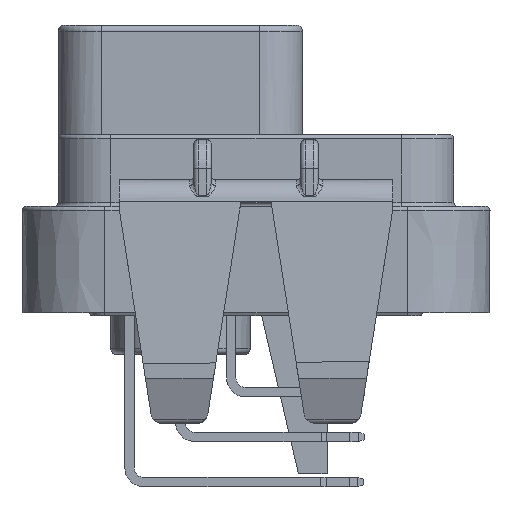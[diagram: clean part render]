
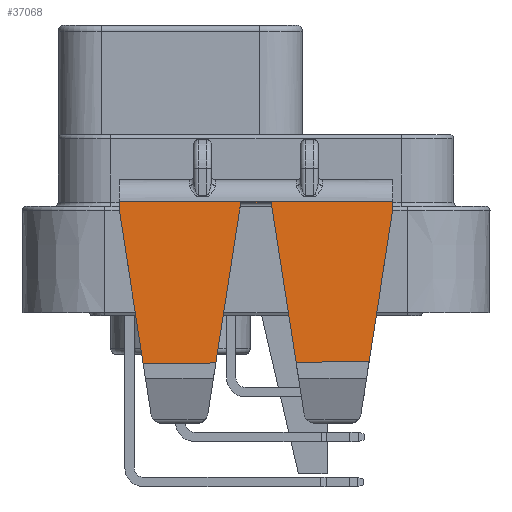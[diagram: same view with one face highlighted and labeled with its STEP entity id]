
A CAD part, left-side view. The second image highlights one B-rep face of the part: STEP entity #37068.
In plain terms, the highlighted planar face has unit normal (-0.998, 0, 0.056).
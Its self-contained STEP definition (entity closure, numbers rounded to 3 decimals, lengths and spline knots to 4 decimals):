
#2166=DIRECTION('',(0.056,0.,0.998));
#2167=VECTOR('',#2166,0.0315);
#2168=CARTESIAN_POINT('',(-2.4013,-0.475,-0.015));
#2169=LINE('',#2168,#2167);
#2528=DIRECTION('',(0.056,0.,0.998));
#2529=VECTOR('',#2528,0.0315);
#2530=CARTESIAN_POINT('',(-2.4013,0.475,-0.015));
#2531=LINE('',#2530,#2529);
#3285=DIRECTION('',(0.,1.,0.));
#3286=VECTOR('',#3285,0.95);
#3287=CARTESIAN_POINT('',(-2.3996,-0.475,0.0165));
#3288=LINE('',#3287,#3286);
#3406=DIRECTION('',(0.,1.,-0.009));
#3407=VECTOR('',#3406,0.2519);
#3408=CARTESIAN_POINT('',(-2.4311,0.1401,
-0.5467));
#3409=LINE('',#3408,#3407);
#3410=DIRECTION('',(0.055,0.153,0.987));
#3411=VECTOR('',#3410,0.5411);
#3412=CARTESIAN_POINT('',(-2.4312,0.392,
-0.5489));
#3413=LINE('',#3412,#3411);
#3414=DIRECTION('',(0.055,-0.153,0.987));
#3415=VECTOR('',#3414,0.5341);
#3416=CARTESIAN_POINT('',(-2.4308,-0.3931,
-0.5419));
#3417=LINE('',#3416,#3415);
#3418=DIRECTION('',(0.,1.,-0.009));
#3419=VECTOR('',#3418,0.2534);
#3420=CARTESIAN_POINT('',(-2.4308,-0.3931,
-0.5419));
#3421=LINE('',#3420,#3419);
#3422=DIRECTION('',(0.,-1.,0.));
#3423=VECTOR('',#3422,0.1066);
#3424=CARTESIAN_POINT('',(-2.3998,0.0533,0.012));
#3425=LINE('',#3424,#3423);
#3438=DIRECTION('',(0.055,-0.153,0.987));
#3439=VECTOR('',#3438,0.5662);
#3440=CARTESIAN_POINT('',(-2.4311,0.1401,
-0.5467));
#3441=LINE('',#3440,#3439);
#3737=DIRECTION('',(-0.055,-0.153,-0.987));
#3738=VECTOR('',#3737,0.5637);
#3739=CARTESIAN_POINT('',(-2.3998,-0.0533,0.012));
#3740=LINE('',#3739,#3738);
#27042=CARTESIAN_POINT('',(-2.3996,-0.475,0.0165));
#27044=VERTEX_POINT('',#27042);
#27046=CARTESIAN_POINT('',(-2.3996,0.475,0.0165));
#27048=VERTEX_POINT('',#27046);
#28370=CARTESIAN_POINT('',(-2.4013,-0.475,-0.015));
#28372=VERTEX_POINT('',#28370);
#28374=CARTESIAN_POINT('',(-2.4013,0.475,-0.015));
#28376=VERTEX_POINT('',#28374);
#28390=CARTESIAN_POINT('',(-2.3998,0.0533,0.012));
#28391=CARTESIAN_POINT('',(-2.3998,-0.0533,0.012));
#28392=VERTEX_POINT('',#28390);
#28393=VERTEX_POINT('',#28391);
#28394=CARTESIAN_POINT('',(-2.4308,-0.3931,
-0.5419));
#28395=VERTEX_POINT('',#28394);
#28396=CARTESIAN_POINT('',(-2.4312,0.392,
-0.5489));
#28397=VERTEX_POINT('',#28396);
#32600=CARTESIAN_POINT('',(-2.4311,0.1401,
-0.5467));
#32601=VERTEX_POINT('',#32600);
#32602=CARTESIAN_POINT('',(-2.4309,-0.1397,
-0.5442));
#32603=VERTEX_POINT('',#32602);
#37044=CARTESIAN_POINT('',(-2.4319,-0.475,-0.5615));
#37045=DIRECTION('',(-0.998,0.,0.056));
#37046=DIRECTION('',(0.056,0.,0.998));
#37047=AXIS2_PLACEMENT_3D('',#37044,#37045,#37046);
#37048=PLANE('',#37047);
#37050=ORIENTED_EDGE('',*,*,#37049,.F.);
#37052=ORIENTED_EDGE('',*,*,#37051,.T.);
#37054=ORIENTED_EDGE('',*,*,#37053,.T.);
#37055=ORIENTED_EDGE('',*,*,#35770,.T.);
#37056=ORIENTED_EDGE('',*,*,#37018,.F.);
#37057=ORIENTED_EDGE('',*,*,#35388,.F.);
#37059=ORIENTED_EDGE('',*,*,#37058,.F.);
#37061=ORIENTED_EDGE('',*,*,#37060,.T.);
#37063=ORIENTED_EDGE('',*,*,#37062,.F.);
#37065=ORIENTED_EDGE('',*,*,#37064,.F.);
#37066=EDGE_LOOP('',(#37050,#37052,#37054,#37055,#37056,#37057,#37059,#37061,
#37063,#37065));
#37067=FACE_OUTER_BOUND('',#37066,.F.);
#37068=ADVANCED_FACE('',(#37067),#37048,.T.);
#35388=EDGE_CURVE('',#28372,#27044,#2169,.T.);
#35770=EDGE_CURVE('',#28376,#27048,#2531,.T.);
#37018=EDGE_CURVE('',#27044,#27048,#3288,.T.);
#37049=EDGE_CURVE('',#32601,#28392,#3441,.T.);
#37051=EDGE_CURVE('',#32601,#28397,#3409,.T.);
#37053=EDGE_CURVE('',#28397,#28376,#3413,.T.);
#37058=EDGE_CURVE('',#28395,#28372,#3417,.T.);
#37060=EDGE_CURVE('',#28395,#32603,#3421,.T.);
#37062=EDGE_CURVE('',#28393,#32603,#3740,.T.);
#37064=EDGE_CURVE('',#28392,#28393,#3425,.T.);
